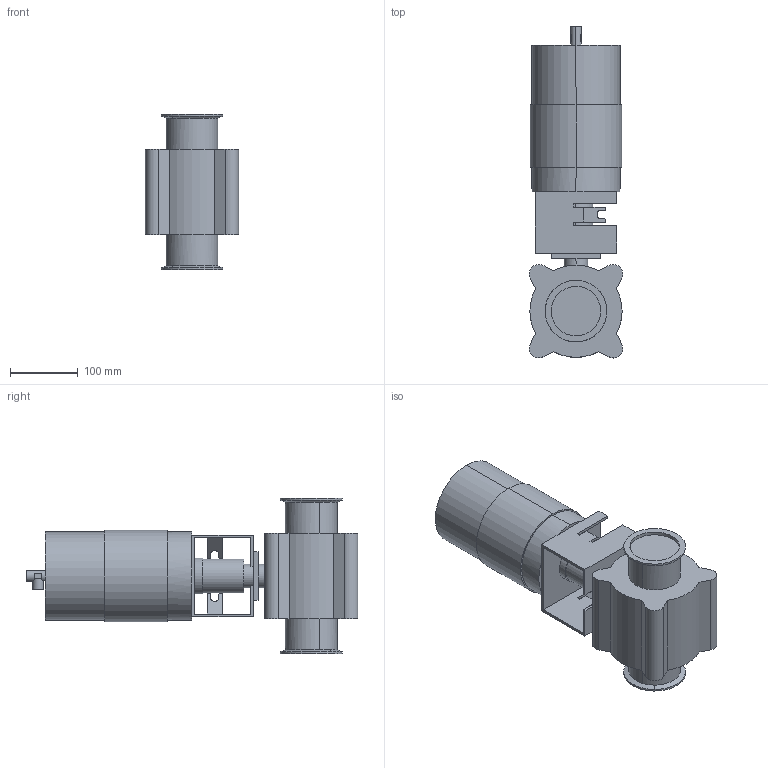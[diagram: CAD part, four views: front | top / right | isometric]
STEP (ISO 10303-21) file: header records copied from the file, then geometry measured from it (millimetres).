
FILE_DESCRIPTION(('Creo Elements/Direct Modeling STEP Export'),'2;1');
FILE_NAME('BLV1-3T-NC-12CL.stp','2019-05-10T 8:26:13',(''),(''),'Creo Elements/Direct Modeling STEP processor for AP214 (Solid Model)','Creo Elements/Direct Modeling 19.0F 14-Feb-2017 (C) Parametric Technology GmbH','');
FILE_SCHEMA(('AUTOMOTIVE_DESIGN { 1 0 10303 214 1 1 1 1 }'));
Length unit declared in the file: millimetre
Products named in the file (2): BLV1-3T-NC-12CL
Assembly tree (1 placements, depth 2):
  BLV1-3T-NC-12CL
    BLV1-3T-NC-12CL
Bounding box: 137.58 x 488.99 x 229 mm (x, y, z)
Volume: 5947531.2 mm3; surface area: 342723.2 mm2
Topology: 1 solids, 1 shells, 138 faces, 365 edges, 238 vertices
Faces by surface type: plane 92, cylinder 42, cone 4
Entity records: 3899 total; most frequent: ORIENTED_EDGE 730, CARTESIAN_POINT 692, DIRECTION 582, EDGE_CURVE 365, VERTEX_POINT 238, VECTOR 224, LINE 224, AXIS2_PLACEMENT_3D 179
